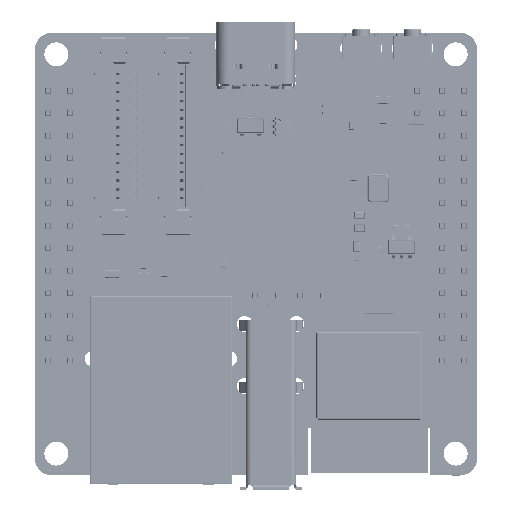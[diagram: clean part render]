
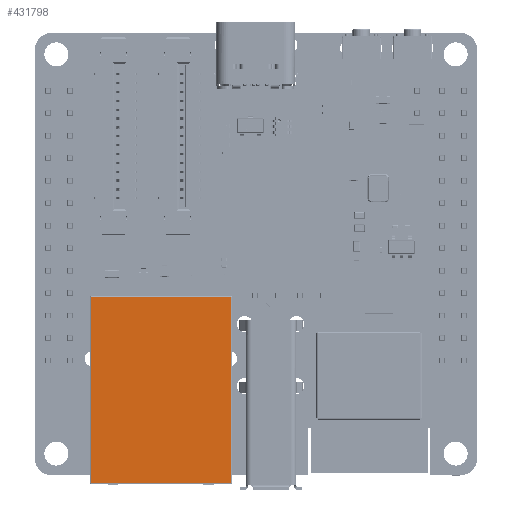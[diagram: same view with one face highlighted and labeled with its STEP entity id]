
A CAD part, top view. The second image highlights one B-rep face of the part: STEP entity #431798.
In plain terms, the highlighted planar face has unit normal (0, 0, 1) as drawn and (0, 1, 0) by its records, which use the part's own axes.
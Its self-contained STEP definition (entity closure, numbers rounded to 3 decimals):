
#423898=DIRECTION('',(-1.,0.,0.));
#423899=VECTOR('',#423898,15.84);
#423900=CARTESIAN_POINT('',(7.92,6.75,
-20.95));
#423901=LINE('',#423900,#423899);
#423905=DIRECTION('',(0.,0.,-1.));
#423906=VECTOR('',#423905,21.);
#423907=CARTESIAN_POINT('',(7.92,6.75,0.05));
#423908=LINE('',#423907,#423906);
#423912=DIRECTION('',(-1.,0.,0.));
#423913=VECTOR('',#423912,15.84);
#423914=CARTESIAN_POINT('',(7.92,6.75,0.05));
#423915=LINE('',#423914,#423913);
#423919=DIRECTION('',(0.,0.,-1.));
#423920=VECTOR('',#423919,21.);
#423921=CARTESIAN_POINT('',(-7.92,6.75,0.05));
#423922=LINE('',#423921,#423920);
#428263=CARTESIAN_POINT('',(-7.92,6.75,0.05));
#428264=VERTEX_POINT('',#428263);
#428267=CARTESIAN_POINT('',(7.92,6.75,0.05));
#428268=VERTEX_POINT('',#428267);
#428287=CARTESIAN_POINT('',(7.92,6.75,
-20.95));
#428288=CARTESIAN_POINT('',(-7.92,6.75,-20.95));
#428289=VERTEX_POINT('',#428287);
#428290=VERTEX_POINT('',#428288);
#431785=CARTESIAN_POINT('',(7.95,6.75,0.));
#431786=DIRECTION('',(0.,1.,0.));
#431787=DIRECTION('',(0.,0.,1.));
#431788=AXIS2_PLACEMENT_3D('',#431785,#431786,#431787);
#431789=PLANE('',#431788);
#431790=ORIENTED_EDGE('',*,*,#431766,.F.);
#431791=ORIENTED_EDGE('',*,*,#431673,.F.);
#431793=ORIENTED_EDGE('',*,*,#431792,.T.);
#431795=ORIENTED_EDGE('',*,*,#431794,.T.);
#431796=EDGE_LOOP('',(#431790,#431791,#431793,#431795));
#431797=FACE_OUTER_BOUND('',#431796,.F.);
#431798=ADVANCED_FACE('',(#431797),#431789,.T.);
#431673=EDGE_CURVE('',#428268,#428289,#423908,.T.);
#431766=EDGE_CURVE('',#428289,#428290,#423901,.T.);
#431792=EDGE_CURVE('',#428268,#428264,#423915,.T.);
#431794=EDGE_CURVE('',#428264,#428290,#423922,.T.);
